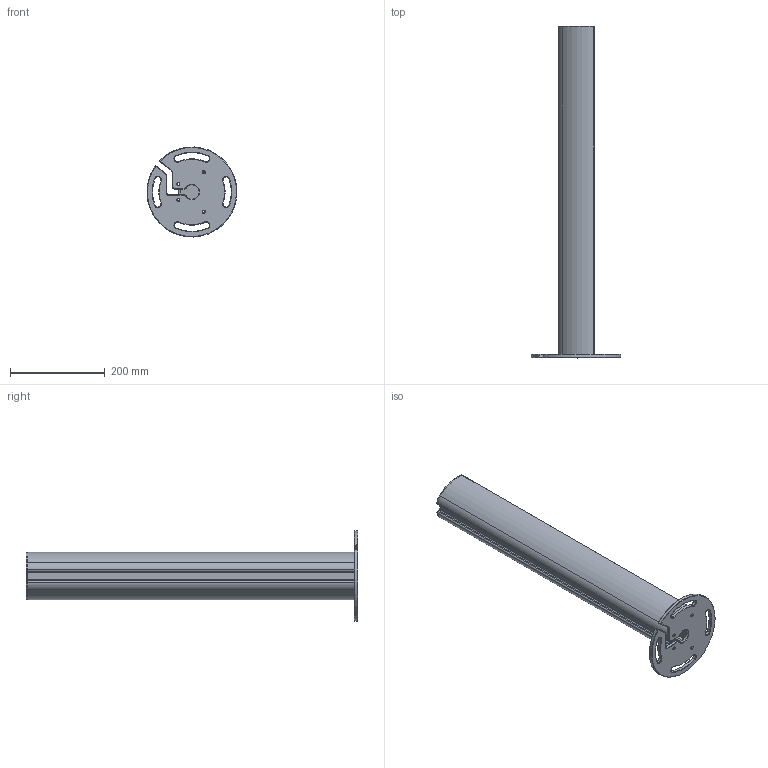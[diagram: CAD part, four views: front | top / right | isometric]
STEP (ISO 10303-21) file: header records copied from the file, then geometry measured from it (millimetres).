
FILE_DESCRIPTION((''),'2;1');
FILE_NAME('ESQC_ASM','2022-07-19T11:52:17',('18822879468'),(''),'CREO PARAMETRIC BY PTC INC, 2019010','CREO PARAMETRIC BY PTC INC, 2019010','');
FILE_SCHEMA(('CONFIG_CONTROL_DESIGN'));
Length unit declared in the file: millimetre
Products named in the file (5): 00; _-0001; _-0002; 000; ESQC_ASM
Assembly tree (4 placements, depth 2):
  ESQC_ASM
    00
    _-0001
    _-0002
    000
Bounding box: 189.81 x 700 x 189.85 mm (x, y, z)
Volume: 1117514.4 mm3; surface area: 575700.7 mm2
Topology: 4 solids, 4 shells, 239 faces, 613 edges, 378 vertices
Faces by surface type: cylinder 98, plane 73, cone 68
Entity records: 7388 total; most frequent: DIRECTION 1365, CARTESIAN_POINT 1235, ORIENTED_EDGE 1218, EDGE_CURVE 609, AXIS2_PLACEMENT_3D 508, VERTEX_POINT 378, VECTOR 349, LINE 349
